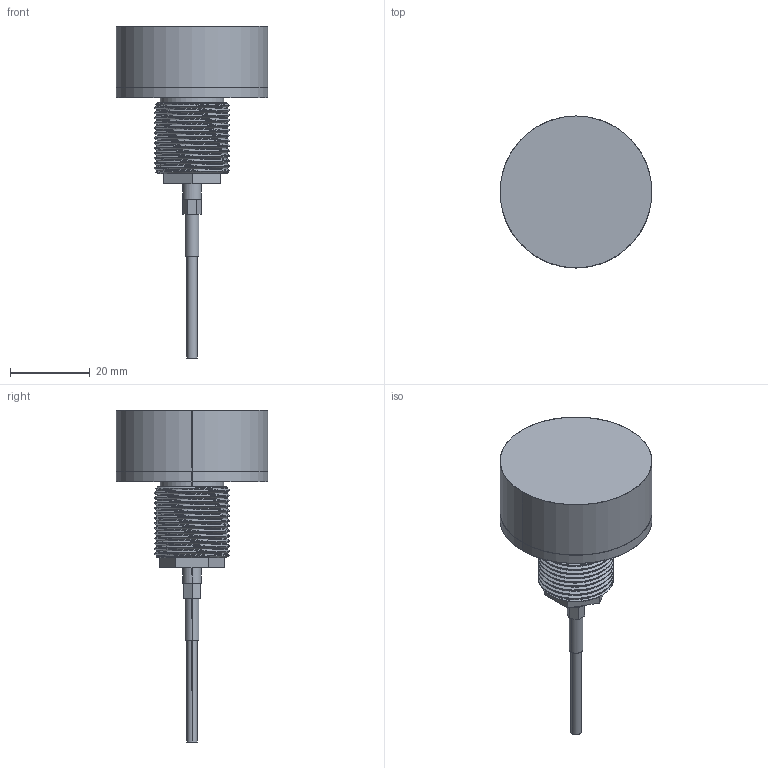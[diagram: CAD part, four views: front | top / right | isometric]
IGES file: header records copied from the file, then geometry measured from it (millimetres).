
Start section: SolidWorks IGES file using analytic representation for surfaces
Global section: file name: C:\Documents and Settings\Administrator\My Documents\EDI\3D\finished sensors\38U.IGS; native system: SolidWorks 2008; preprocessor: SolidWorks 2008; author: Administrator; date: 100305.114028; units: inch
Bounding box: 38.13 x 38.13 x 83.31 mm (x, y, z)
Surface area: 6786.7 mm2 (no closed solid volume)
Topology: 0 solids, 0 shells, 75 faces, 1378 edges, 1378 vertices
Faces by surface type: revolution 45, bspline 30
